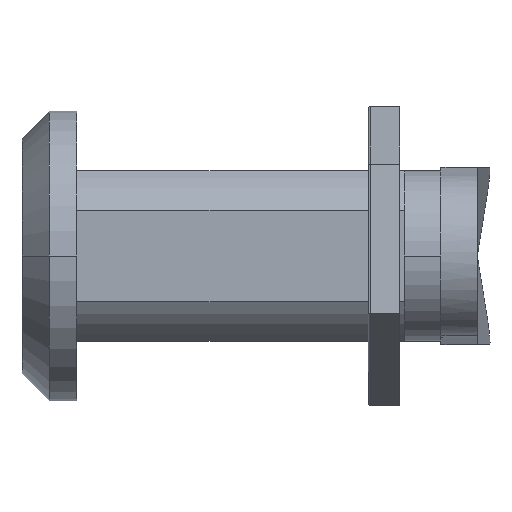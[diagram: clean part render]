
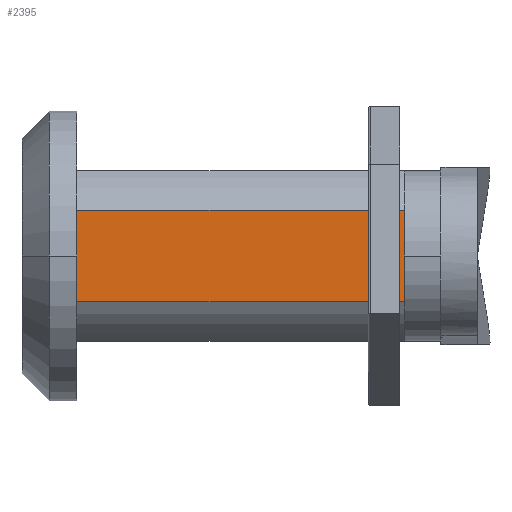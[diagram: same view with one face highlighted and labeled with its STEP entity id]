
A CAD part, left-side view. The second image highlights one B-rep face of the part: STEP entity #2395.
In plain terms, the highlighted planar face has unit normal (-1, 0, 0).
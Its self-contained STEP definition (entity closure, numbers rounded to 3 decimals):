
#53 = EDGE_CURVE ( 'NONE', #3081, #1627, #219, .T. ) ;
#135 = VERTEX_POINT ( 'NONE', #1994 ) ;
#137 = ORIENTED_EDGE ( 'NONE', *, *, #965, .F. ) ;
#219 = LINE ( 'NONE', #1114, #3452 ) ;
#285 = DIRECTION ( 'NONE',  ( 1., 0., 0. ) ) ;
#310 = ORIENTED_EDGE ( 'NONE', *, *, #809, .F. ) ;
#606 = ORIENTED_EDGE ( 'NONE', *, *, #53, .T. ) ;
#613 = VECTOR ( 'NONE', #3624, 1000. ) ;
#809 = EDGE_CURVE ( 'NONE', #135, #1722, #1021, .T. ) ;
#965 = EDGE_CURVE ( 'NONE', #1722, #2725, #1917, .T. ) ;
#1021 = LINE ( 'NONE', #2226, #3592 ) ;
#1114 = CARTESIAN_POINT ( 'NONE',  ( 638.141, 860.045, 1267.211 ) ) ;
#1218 = CARTESIAN_POINT ( 'NONE',  ( 638.141, 896.045, 1267.211 ) ) ;
#1242 = FACE_OUTER_BOUND ( 'NONE', #2720, .T. ) ;
#1252 = CARTESIAN_POINT ( 'NONE',  ( 638.141, 860.045, 1267.211 ) ) ;
#1285 = PLANE ( 'NONE',  #2455 ) ;
#1533 = CARTESIAN_POINT ( 'NONE',  ( 638.141, 896.045, 1267.211 ) ) ;
#1590 = LINE ( 'NONE', #2475, #613 ) ;
#1597 = DIRECTION ( 'NONE',  ( 0., -1., 0. ) ) ;
#1627 = VERTEX_POINT ( 'NONE', #3382 ) ;
#1635 = VECTOR ( 'NONE', #2748, 1000. ) ;
#1722 = VERTEX_POINT ( 'NONE', #1533 ) ;
#1917 = LINE ( 'NONE', #3029, #1635 ) ;
#1964 = CARTESIAN_POINT ( 'NONE',  ( 638.141, 860.045, 1257.211 ) ) ;
#1994 = CARTESIAN_POINT ( 'NONE',  ( 638.141, 896.045, 1257.211 ) ) ;
#2226 = CARTESIAN_POINT ( 'NONE',  ( 638.141, 896.045, 1267.211 ) ) ;
#2386 = DIRECTION ( 'NONE',  ( 0., 0., 1. ) ) ;
#2395 = ADVANCED_FACE ( 'NONE', ( #1242 ), #1285, .F. ) ;
#2445 = CARTESIAN_POINT ( 'NONE',  ( 638.141, 896.045, 1257.211 ) ) ;
#2455 = AXIS2_PLACEMENT_3D ( 'NONE', #1218, #285, #2756 ) ;
#2475 = CARTESIAN_POINT ( 'NONE',  ( 638.141, 860.045, 1267.211 ) ) ;
#2610 = ORIENTED_EDGE ( 'NONE', *, *, #2758, .T. ) ;
#2669 = ORIENTED_EDGE ( 'NONE', *, *, #3526, .T. ) ;
#2720 = EDGE_LOOP ( 'NONE', ( #606, #2610, #137, #310, #2669 ) ) ;
#2725 = VERTEX_POINT ( 'NONE', #1252 ) ;
#2748 = DIRECTION ( 'NONE',  ( 0., -1., 0. ) ) ;
#2756 = DIRECTION ( 'NONE',  ( 0., 0., -1. ) ) ;
#2758 = EDGE_CURVE ( 'NONE', #1627, #2725, #1590, .T. ) ;
#2771 = VECTOR ( 'NONE', #1597, 1000. ) ;
#3029 = CARTESIAN_POINT ( 'NONE',  ( 638.141, 896.045, 1267.211 ) ) ;
#3031 = LINE ( 'NONE', #2445, #2771 ) ;
#3081 = VERTEX_POINT ( 'NONE', #1964 ) ;
#3371 = DIRECTION ( 'NONE',  ( 0., 0., 1. ) ) ;
#3382 = CARTESIAN_POINT ( 'NONE',  ( 638.141, 860.045, 1262.211 ) ) ;
#3452 = VECTOR ( 'NONE', #2386, 1000. ) ;
#3526 = EDGE_CURVE ( 'NONE', #135, #3081, #3031, .T. ) ;
#3592 = VECTOR ( 'NONE', #3371, 1000. ) ;
#3624 = DIRECTION ( 'NONE',  ( 0., 0., 1. ) ) ;
